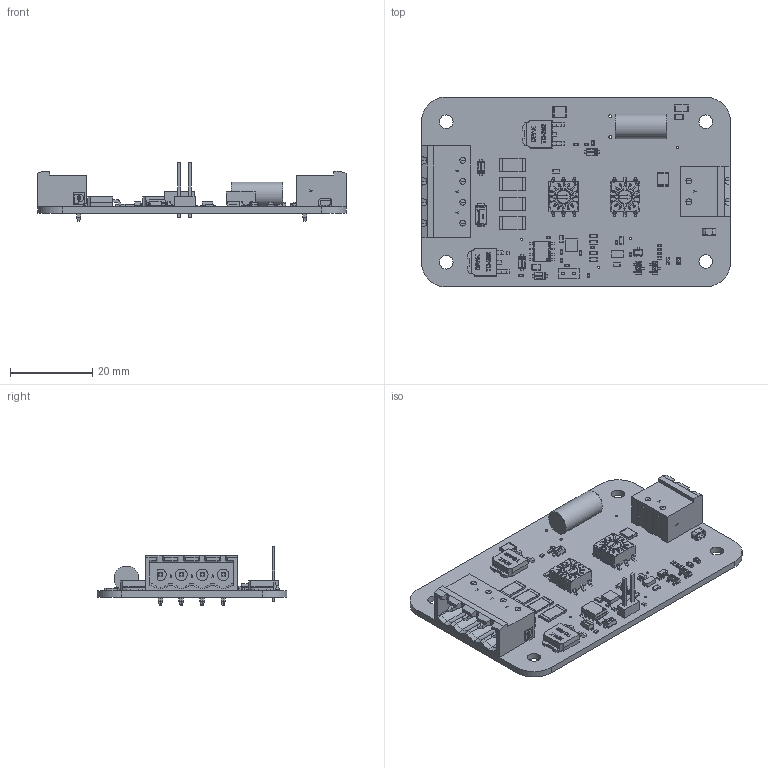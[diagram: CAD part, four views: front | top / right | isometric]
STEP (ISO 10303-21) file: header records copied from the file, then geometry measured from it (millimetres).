
FILE_DESCRIPTION(('Open CASCADE Model'),'2;1');
FILE_NAME('Open CASCADE Shape Model','2021-05-14T10:31:43',('Author'),( 'Open CASCADE'),'Open CASCADE STEP processor 6.8','Open CASCADE 6.8' ,'Unknown');
FILE_SCHEMA(('AUTOMOTIVE_DESIGN { 1 0 10303 214 1 1 1 1 }'));
Length unit declared in the file: millimetre
Products named in the file (192): PCB; Board; Open CASCADE STEP translator 6.8 1.1.1; C10; 6750768240; Terminal; Open_CASCADE_STEP_translator_6.8_7.1.1; Open_CASCADE_STEP_translator_6.8_7.1.2; Mid_Body; Open_CASCADE_STEP_translator_6.8_7.2.1; C9; 6750766000; C8; 5756298768; Open_CASCADE_STEP_translator_6.8_3.1.1; Open_CASCADE_STEP_translator_6.8_3.1.2; Open_CASCADE_STEP_translator_6.8_3.2.1; R24; 6750768720; Mark; D1; User_Library-SOD123F; TP4; s1751-46; R4; 6750769680; Open_CASCADE_STEP_translator_6.8_1.2.1; R3; 6750766480; R2; R1; Q1; User_Library-DPAK_TO-252AA; R23; Q6; User_Library-SOT-23-2; Q5; 6750772080; Open_CASCADE_STEP_translator_6.8_1.1; Body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
Assembly tree (234 placements, depth 5):
  PCB
    Board
      Open CASCADE STEP translator 6.8 1.1.1
    C10
      6750768240
        Terminal
          Open_CASCADE_STEP_translator_6.8_7.1.1
          Open_CASCADE_STEP_translator_6.8_7.1.2
        Mid_Body
          Open_CASCADE_STEP_translator_6.8_7.2.1
    C9
      6750766000
        Terminal
          Open_CASCADE_STEP_translator_6.8_7.1.1
          Open_CASCADE_STEP_translator_6.8_7.1.2
        Mid_Body
          Open_CASCADE_STEP_translator_6.8_7.2.1
    C8
      5756298768
        Terminal
          Open_CASCADE_STEP_translator_6.8_3.1.1
          Open_CASCADE_STEP_translator_6.8_3.1.2
        Mid_Body
          Open_CASCADE_STEP_translator_6.8_3.2.1
    R24
      6750768720
        Mid_Body
        Terminal  x2
          Open_CASCADE_STEP_translator_6.8_7.2.1
        Mark
    D1
      User_Library-SOD123F
    TP4
      s1751-46
    R4
      6750769680
        Mid_Body
        Terminal  x2
          Open_CASCADE_STEP_translator_6.8_1.2.1
        Mark
    R3
      6750766480
        Mid_Body
        Terminal  x2
          Open_CASCADE_STEP_translator_6.8_1.2.1
        Mark
    R2
      6750769680
        Mid_Body
        Terminal  x2
          Open_CASCADE_STEP_translator_6.8_1.2.1
        Mark
    R1
      6750766480
        Mid_Body
        Terminal  x2
          Open_CASCADE_STEP_translator_6.8_1.2.1
        Mark
    Q1
      User_Library-DPAK_TO-252AA
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Bounding box: 75 x 46.12 x 14.17 mm (x, y, z)
Volume: 8407.1 mm3; surface area: 12431.9 mm2
Topology: 165 solids, 170 shells, 5116 faces, 12852 edges, 8166 vertices
Faces by surface type: plane 3267, cylinder 905, bspline 788, sphere 140, cone 16
Full cylindrical faces by diameter (mm): 0.5 x5, 0.7 x2, 1 x2, 1.4 x6, 3.3 x4, 6 x1
Entity records: 108416 total; most frequent: CARTESIAN_POINT 31810, ORIENTED_EDGE 14123, DIRECTION 12710, EDGE_CURVE 7064, LINE 4694, VECTOR 4694, VERTEX_POINT 4484, AXIS2_PLACEMENT_3D 4008
